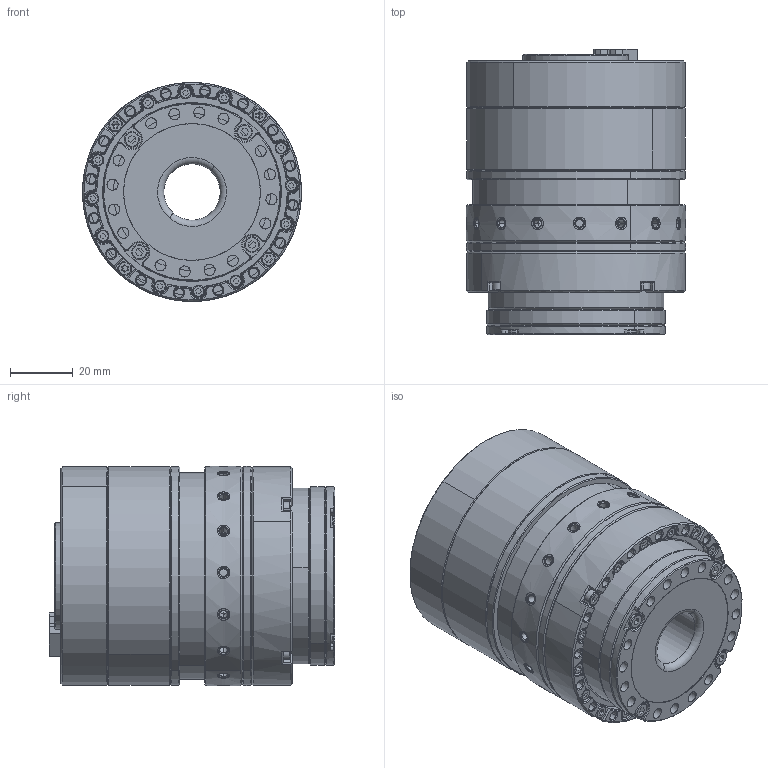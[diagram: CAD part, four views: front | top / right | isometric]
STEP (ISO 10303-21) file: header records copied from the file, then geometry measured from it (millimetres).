
FILE_DESCRIPTION (( 'STEP AP203' ), '1' );
FILE_NAME ('CRA-RI60-70-PRO-2-xxx-B-A0.STEP', '2024-08-21T07:29:10', ( '' ), ( '' ), 'SwSTEP 2.0', 'SolidWorks 2021', '' );
FILE_SCHEMA (( 'CONFIG_CONTROL_DESIGN' ));
Length unit declared in the file: millimetre
Products named in the file (1): CRA-RI60-70-PRO-2-xxx-B-A0
Bounding box: 70 x 91.2 x 70 mm (x, y, z)
Surface area: 51261.6 mm2 (no closed solid volume)
Topology: 0 solids, 77 shells, 1039 faces, 3478 edges, 2491 vertices
Faces by surface type: plane 370, cylinder 328, cone 276, torus 65
Entity records: 40969 total; most frequent: CARTESIAN_POINT 10188, DIRECTION 6826, ORIENTED_EDGE 5475, EDGE_CURVE 3462, AXIS2_PLACEMENT_3D 2585, VERTEX_POINT 2491, VECTOR 1656, LINE 1656
